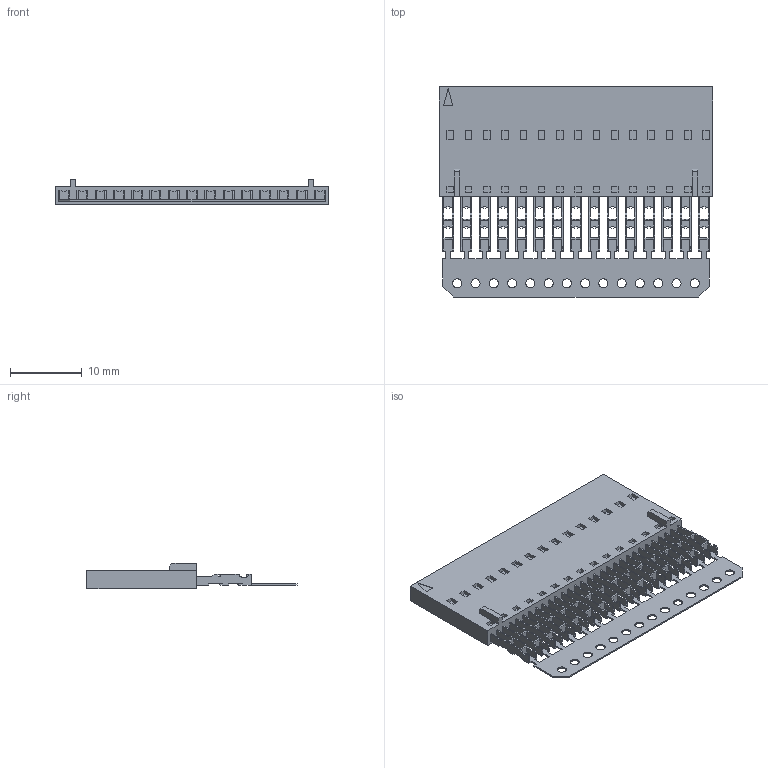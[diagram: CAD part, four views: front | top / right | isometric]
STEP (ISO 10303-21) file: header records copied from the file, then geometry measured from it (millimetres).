
FILE_DESCRIPTION((''),'2;1');
FILE_NAME('014563159','2016-12-07T',('ksrinivasara'),(''),'PRO/ENGINEER BY PARAMETRIC TECHNOLOGY CORPORATION, 2012310','PRO/ENGINEER BY PARAMETRIC TECHNOLOGY CORPORATION, 2012310','');
FILE_SCHEMA(('CONFIG_CONTROL_DESIGN'));
Length unit declared in the file: inch
Products named in the file (1): 014563159
Bounding box: 38.07 x 29.21 x 3.53 mm (x, y, z)
Volume: 1542.1 mm3; surface area: 2836.6 mm2
Topology: 1 solids, 1 shells, 1646 faces, 4922 edges, 3160 vertices
Faces by surface type: plane 1558, cylinder 88
Entity records: 54303 total; most frequent: ORIENTED_EDGE 9816, CARTESIAN_POINT 9702, DIRECTION 8394, EDGE_CURVE 4908, VECTOR 4746, LINE 4746, VERTEX_POINT 3132, AXIS2_PLACEMENT_3D 1824
